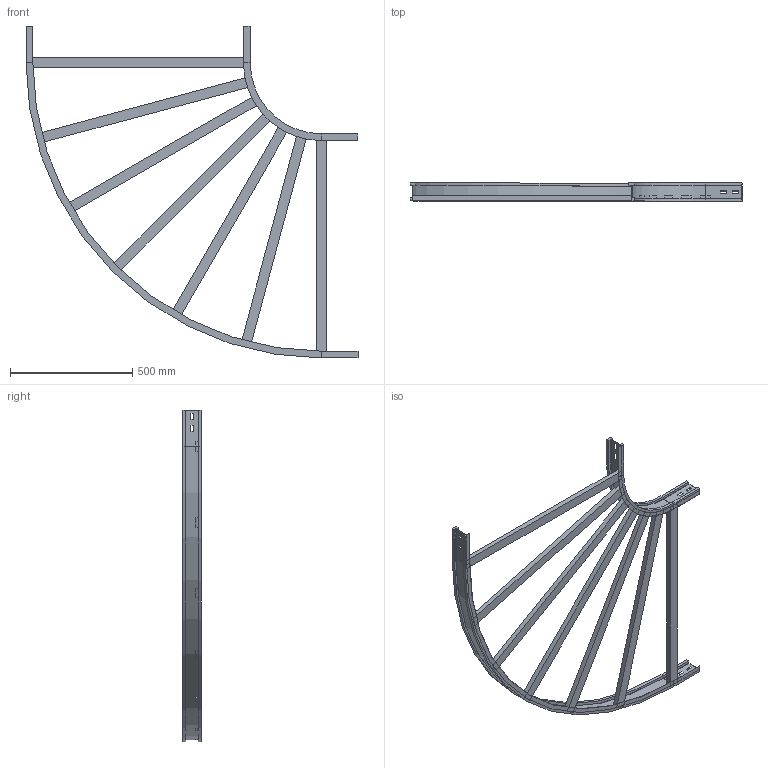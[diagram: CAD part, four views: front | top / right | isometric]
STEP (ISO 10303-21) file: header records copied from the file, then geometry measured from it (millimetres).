
FILE_DESCRIPTION (( 'STEP AP214' ), '1' );
FILE_NAME ('10S3C900.step', '2025-02-21T16:11:36', ( '' ), ( '' ), 'SwSTEP 2.0', 'SolidWorks 2023', '' );
FILE_SCHEMA (( 'AUTOMOTIVE_DESIGN' ));
Length unit declared in the file: millimetre
Products named in the file (4): LONGH.ESTERNO 90°_H75_R300+900; TRAVERSINO_900; 10S3C900; LONGH.INTERNO 90°_H75_R300
Assembly tree (9 placements, depth 2):
  10S3C900
    LONGH.INTERNO 90°_H75_R300
    LONGH.ESTERNO 90°_H75_R300+900
    TRAVERSINO_900  x7
Bounding box: 1359 x 75 x 1359 mm (x, y, z)
Volume: 6539954.8 mm3; surface area: 1500466 mm2
Topology: 9 solids, 9 shells, 150 faces, 348 edges, 216 vertices
Faces by surface type: plane 138, cylinder 12
Entity records: 3421 total; most frequent: CARTESIAN_POINT 570, DIRECTION 552, ORIENTED_EDGE 552, EDGE_CURVE 276, LINE 252, VECTOR 252, VERTEX_POINT 168, AXIS2_PLACEMENT_3D 150
